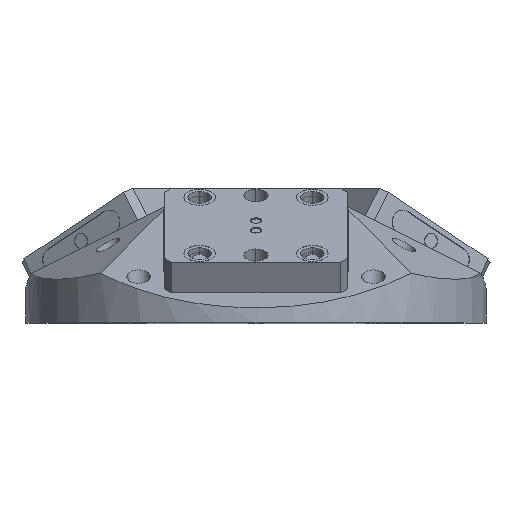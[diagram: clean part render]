
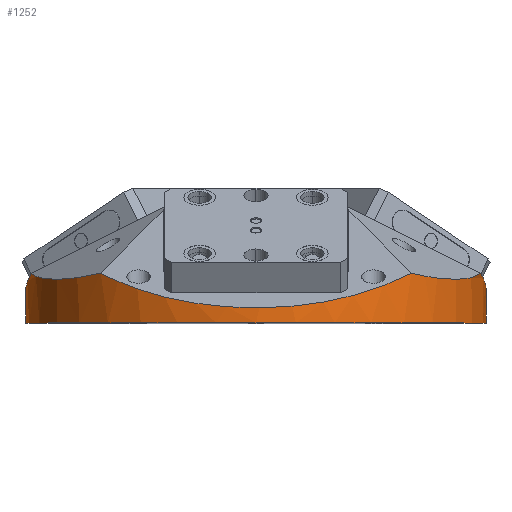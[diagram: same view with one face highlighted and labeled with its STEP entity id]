
A CAD part, top view. The second image highlights one B-rep face of the part: STEP entity #1252.
In plain terms, the highlighted cylindrical face has radius 196.215 mm (diameter 392.43 mm), a partial arc.
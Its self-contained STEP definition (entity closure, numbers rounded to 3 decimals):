
#153 = ORIENTED_EDGE ( 'NONE', *, *, #13313, .F. ) ;
#243 = EDGE_CURVE ( 'NONE', #11589, #11289, #10535, .T. ) ;
#254 = ORIENTED_EDGE ( 'NONE', *, *, #999, .T. ) ;
#784 = EDGE_CURVE ( 'NONE', #13743, #12159, #6041, .T. ) ;
#846 = CARTESIAN_POINT ( 'NONE',  ( 182.843, -82.035, 15.533 ) ) ;
#873 = CARTESIAN_POINT ( 'NONE',  ( 196.215, 0., 50.8 ) ) ;
#965 = CARTESIAN_POINT ( 'NONE',  ( 191.615, -42.236, 8.431 ) ) ;
#999 = EDGE_CURVE ( 'NONE', #6210, #2004, #13437, .T. ) ;
#1036 = CARTESIAN_POINT ( 'NONE',  ( -196.215, -14.218, 18.818 ) ) ;
#1122 = EDGE_CURVE ( 'NONE', #2004, #1502, #4919, .T. ) ;
#1252 = ADVANCED_FACE ( 'NONE', ( #3592 ), #3950, .T. ) ;
#1339 = CARTESIAN_POINT ( 'NONE',  ( 132.385, -144.826, 8.431 ) ) ;
#1502 = VERTEX_POINT ( 'NONE', #4160 ) ;
#1745 = CARTESIAN_POINT ( 'NONE',  ( -132.385, -144.826, 8.431 ) ) ;
#2004 = VERTEX_POINT ( 'NONE', #1745 ) ;
#2163 = AXIS2_PLACEMENT_3D ( 'NONE', #5624, #2543, #5996 ) ;
#2217 = CARTESIAN_POINT ( 'NONE',  ( -132.385, -144.826, 8.431 ) ) ;
#2532 = AXIS2_PLACEMENT_3D ( 'NONE', #9741, #11944, #13093 ) ;
#2543 = DIRECTION ( 'NONE',  ( 0., 0., 1. ) ) ;
#3206 = CARTESIAN_POINT ( 'NONE',  ( 196.215, 0., 22.923 ) ) ;
#3546 = CARTESIAN_POINT ( 'NONE',  ( 53.463, -216.968, 50.082 ) ) ;
#3592 = FACE_OUTER_BOUND ( 'NONE', #13904, .T. ) ;
#3595 = CARTESIAN_POINT ( 'NONE',  ( -196.215, 0., 50.8 ) ) ;
#3812 = CARTESIAN_POINT ( 'NONE',  ( -182.843, -82.035, 15.533 ) ) ;
#3950 = CYLINDRICAL_SURFACE ( 'NONE', #2163, 196.215 ) ;
#4119 = CARTESIAN_POINT ( 'NONE',  ( 132.385, -144.826, 8.431 ) ) ;
#4160 = CARTESIAN_POINT ( 'NONE',  ( 132.385, -144.826, 8.431 ) ) ;
#4643 =( BOUNDED_CURVE ( )  B_SPLINE_CURVE ( 3, ( #7703, #1036, #12271, #7894 ),
 .UNSPECIFIED., .F., .F. ) 
 B_SPLINE_CURVE_WITH_KNOTS ( ( 4, 4 ),
 ( 0.524, 0.741 ),
 .UNSPECIFIED. ) 
 CURVE ( )  GEOMETRIC_REPRESENTATION_ITEM ( )  RATIONAL_B_SPLINE_CURVE ( ( 1., 0.996, 0.996, 1. ) ) 
 REPRESENTATION_ITEM ( '' )  );
#4788 = LINE ( 'NONE', #12296, #5824 ) ;
#4845 = ORIENTED_EDGE ( 'NONE', *, *, #243, .T. ) ;
#4919 =( BOUNDED_CURVE ( )  B_SPLINE_CURVE ( 3, ( #2217, #5449, #3546, #1339 ),
 .UNSPECIFIED., .F., .F. ) 
 B_SPLINE_CURVE_WITH_KNOTS ( ( 4, 4 ),
 ( 5.543, 7.024 ),
 .UNSPECIFIED. ) 
 CURVE ( )  GEOMETRIC_REPRESENTATION_ITEM ( )  RATIONAL_B_SPLINE_CURVE ( ( 1., 0.825, 0.825, 1. ) ) 
 REPRESENTATION_ITEM ( '' )  );
#5065 = EDGE_CURVE ( 'NONE', #11679, #6210, #4643, .T. ) ;
#5449 = CARTESIAN_POINT ( 'NONE',  ( -53.463, -216.968, 50.082 ) ) ;
#5519 = ORIENTED_EDGE ( 'NONE', *, *, #1122, .T. ) ;
#5523 = VECTOR ( 'NONE', #7493, 1000. ) ;
#5624 = CARTESIAN_POINT ( 'NONE',  ( 0., 0., 50.8 ) ) ;
#5824 = VECTOR ( 'NONE', #13394, 1000. ) ;
#5976 = CARTESIAN_POINT ( 'NONE',  ( -162.466, -117.329, 15.533 ) ) ;
#5996 = DIRECTION ( 'NONE',  ( 1., 0., 0. ) ) ;
#6041 = CIRCLE ( 'NONE', #2532, 196.215 ) ;
#6210 = VERTEX_POINT ( 'NONE', #12235 ) ;
#6466 = ORIENTED_EDGE ( 'NONE', *, *, #10777, .T. ) ;
#6566 = LINE ( 'NONE', #873, #5523 ) ;
#7021 = EDGE_CURVE ( 'NONE', #11289, #12159, #6566, .T. ) ;
#7461 = CARTESIAN_POINT ( 'NONE',  ( 162.466, -117.329, 15.533 ) ) ;
#7493 = DIRECTION ( 'NONE',  ( 0., 0., 1. ) ) ;
#7703 = CARTESIAN_POINT ( 'NONE',  ( -196.215, 0., 22.923 ) ) ;
#7894 = CARTESIAN_POINT ( 'NONE',  ( -191.615, -42.236, 8.431 ) ) ;
#7909 = CARTESIAN_POINT ( 'NONE',  ( 196.215, 0., 50.8 ) ) ;
#8163 = ORIENTED_EDGE ( 'NONE', *, *, #5065, .T. ) ;
#8768 = CARTESIAN_POINT ( 'NONE',  ( 194.676, -28.351, 13.969 ) ) ;
#9208 = CARTESIAN_POINT ( 'NONE',  ( -196.215, 0., 22.923 ) ) ;
#9741 = CARTESIAN_POINT ( 'NONE',  ( 0., 0., 50.8 ) ) ;
#9892 = CARTESIAN_POINT ( 'NONE',  ( 196.215, -14.218, 18.818 ) ) ;
#9939 = ORIENTED_EDGE ( 'NONE', *, *, #7021, .T. ) ;
#10535 =( BOUNDED_CURVE ( )  B_SPLINE_CURVE ( 3, ( #965, #8768, #9892, #3206 ),
 .UNSPECIFIED., .F., .F. ) 
 B_SPLINE_CURVE_WITH_KNOTS ( ( 4, 4 ),
 ( 5.543, 5.76 ),
 .UNSPECIFIED. ) 
 CURVE ( )  GEOMETRIC_REPRESENTATION_ITEM ( )  RATIONAL_B_SPLINE_CURVE ( ( 1., 0.996, 0.996, 1. ) ) 
 REPRESENTATION_ITEM ( '' )  );
#10665 = CARTESIAN_POINT ( 'NONE',  ( -191.615, -42.236, 8.431 ) ) ;
#10777 = EDGE_CURVE ( 'NONE', #1502, #11589, #12461, .T. ) ;
#10984 = ORIENTED_EDGE ( 'NONE', *, *, #784, .F. ) ;
#11289 = VERTEX_POINT ( 'NONE', #13205 ) ;
#11589 = VERTEX_POINT ( 'NONE', #12497 ) ;
#11679 = VERTEX_POINT ( 'NONE', #9208 ) ;
#11944 = DIRECTION ( 'NONE',  ( 0., 0., 1. ) ) ;
#12159 = VERTEX_POINT ( 'NONE', #7909 ) ;
#12235 = CARTESIAN_POINT ( 'NONE',  ( -191.615, -42.236, 8.431 ) ) ;
#12271 = CARTESIAN_POINT ( 'NONE',  ( -194.676, -28.351, 13.969 ) ) ;
#12296 = CARTESIAN_POINT ( 'NONE',  ( -196.215, 0., 50.8 ) ) ;
#12461 =( BOUNDED_CURVE ( )  B_SPLINE_CURVE ( 3, ( #4119, #7461, #846, #13081 ),
 .UNSPECIFIED., .F., .F. ) 
 B_SPLINE_CURVE_WITH_KNOTS ( ( 4, 4 ),
 ( 5.977, 6.59 ),
 .UNSPECIFIED. ) 
 CURVE ( )  GEOMETRIC_REPRESENTATION_ITEM ( )  RATIONAL_B_SPLINE_CURVE ( ( 1., 0.969, 0.969, 1. ) ) 
 REPRESENTATION_ITEM ( '' )  );
#12497 = CARTESIAN_POINT ( 'NONE',  ( 191.615, -42.236, 8.431 ) ) ;
#12835 = CARTESIAN_POINT ( 'NONE',  ( -132.385, -144.826, 8.431 ) ) ;
#13081 = CARTESIAN_POINT ( 'NONE',  ( 191.615, -42.236, 8.431 ) ) ;
#13093 = DIRECTION ( 'NONE',  ( 1., 0., 0. ) ) ;
#13205 = CARTESIAN_POINT ( 'NONE',  ( 196.215, 0., 22.923 ) ) ;
#13313 = EDGE_CURVE ( 'NONE', #11679, #13743, #4788, .T. ) ;
#13394 = DIRECTION ( 'NONE',  ( 0., 0., 1. ) ) ;
#13437 =( BOUNDED_CURVE ( )  B_SPLINE_CURVE ( 3, ( #10665, #3812, #5976, #12835 ),
 .UNSPECIFIED., .F., .F. ) 
 B_SPLINE_CURVE_WITH_KNOTS ( ( 4, 4 ),
 ( 5.977, 6.59 ),
 .UNSPECIFIED. ) 
 CURVE ( )  GEOMETRIC_REPRESENTATION_ITEM ( )  RATIONAL_B_SPLINE_CURVE ( ( 1., 0.969, 0.969, 1. ) ) 
 REPRESENTATION_ITEM ( '' )  );
#13743 = VERTEX_POINT ( 'NONE', #3595 ) ;
#13904 = EDGE_LOOP ( 'NONE', ( #153, #8163, #254, #5519, #6466, #4845, #9939, #10984 ) ) ;
